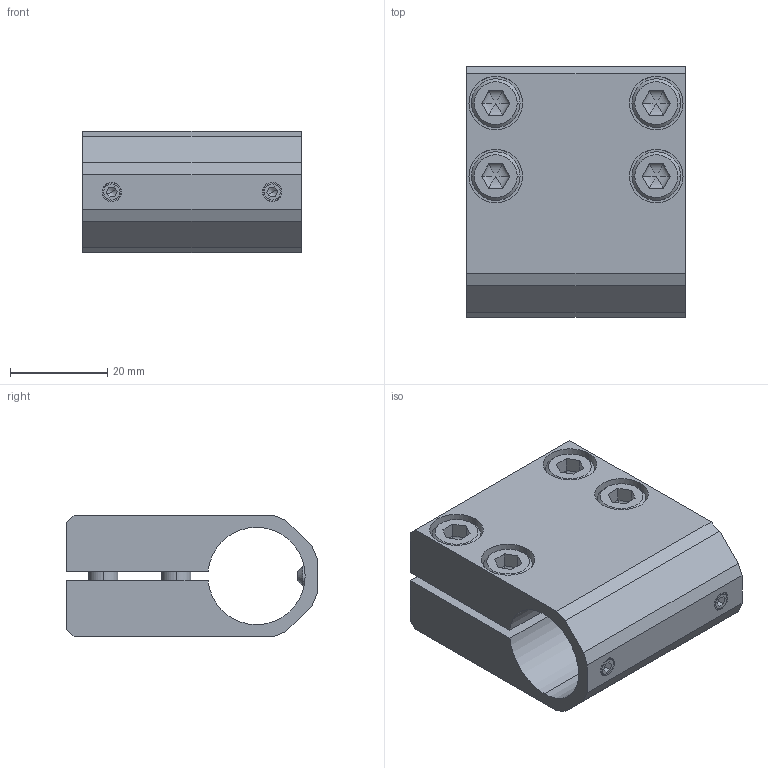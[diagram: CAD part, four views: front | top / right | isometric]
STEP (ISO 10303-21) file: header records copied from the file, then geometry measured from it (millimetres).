
FILE_DESCRIPTION (( 'STEP AP203' ), '1' );
FILE_NAME ('131114.STEP', '2021-10-20T07:57:20', ( '' ), ( '' ), 'SwSTEP 2.0', 'SolidWorks 2018', '' );
FILE_SCHEMA (( 'CONFIG_CONTROL_DESIGN' ));
Length unit declared in the file: millimetre
Products named in the file (1): 131114
Bounding box: 45 x 51.5 x 25 mm (x, y, z)
Volume: 30518.5 mm3; surface area: 18315.1 mm2
Topology: 7 solids, 7 shells, 173 faces, 413 edges, 240 vertices
Faces by surface type: plane 75, cylinder 54, bspline 24, cone 20
Entity records: 5024 total; most frequent: CARTESIAN_POINT 1139, ORIENTED_EDGE 770, DIRECTION 761, EDGE_CURVE 385, AXIS2_PLACEMENT_3D 270, VERTEX_POINT 240, LINE 221, VECTOR 221
